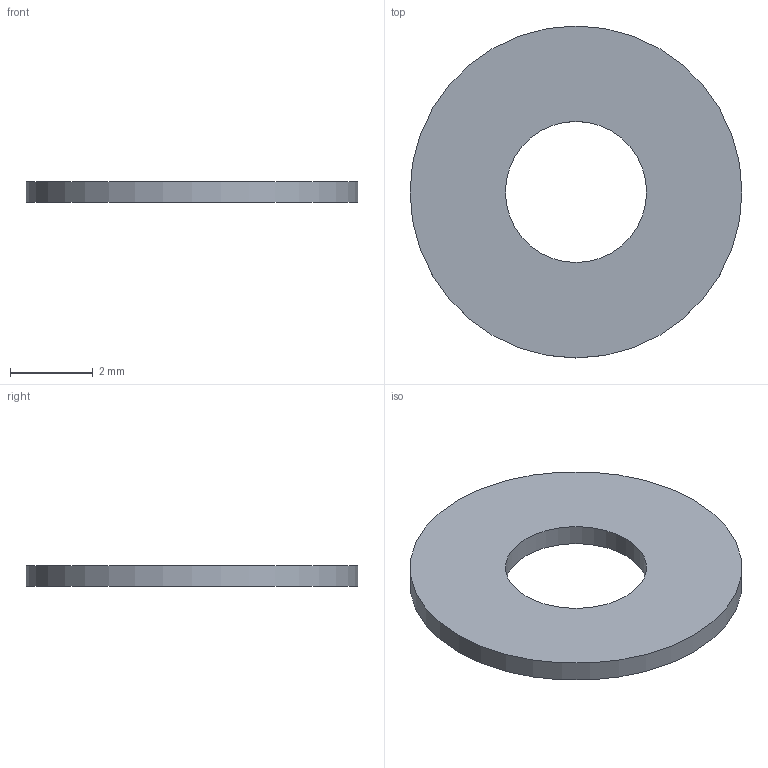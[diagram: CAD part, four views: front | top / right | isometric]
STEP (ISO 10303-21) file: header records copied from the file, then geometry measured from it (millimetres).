
FILE_DESCRIPTION(('Open CASCADE Model'),'2;1');
FILE_NAME('S09-yaw_axle_washer.step', '', ('Noah Wilson'), (''), '', '', '');
FILE_SCHEMA(('AUTOMOTIVE_DESIGN { 1 0 10303 214 1 1 1 1 }'));
Length unit declared in the file: millimetre
Products named in the file (2): =>[0:1:1:2]; COMPOUND
Assembly tree (1 placements, depth 2):
  =>[0:1:1:2]
    COMPOUND
Bounding box: 8 x 8 x 0.5 mm (x, y, z)
Volume: 20.6 mm3; surface area: 100.3 mm2
Topology: 1 solids, 1 shells, 4 faces, 6 edges, 4 vertices
Faces by surface type: cylinder 2, plane 2
Full cylindrical faces by diameter (mm): 3.4 x1, 8 x1
Entity records: 204 total; most frequent: DIRECTION 34, CARTESIAN_POINT 28, ORIENTED_EDGE 12, PCURVE 12, DEFINITIONAL_REPRESENTATION 12, AXIS2_PLACEMENT_3D 10, LINE 10, VECTOR 10
